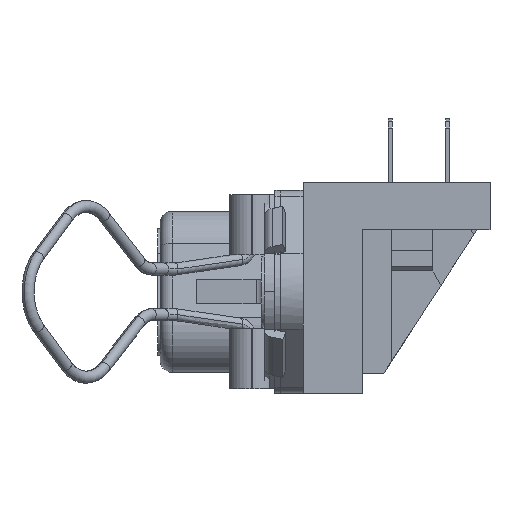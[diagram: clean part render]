
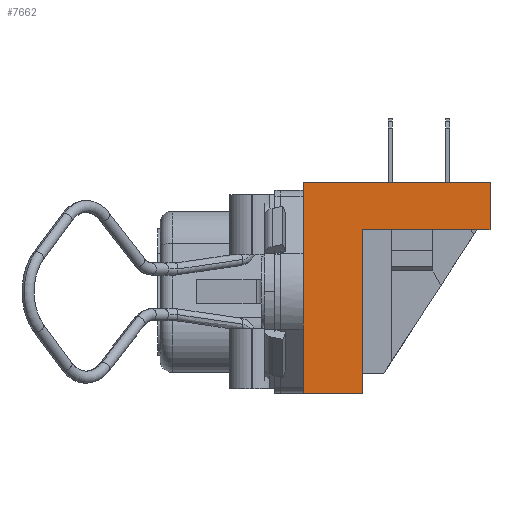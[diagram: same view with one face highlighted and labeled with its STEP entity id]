
A CAD part, left-side view. The second image highlights one B-rep face of the part: STEP entity #7662.
In plain terms, the highlighted planar face has unit normal (-1, 0, 0).
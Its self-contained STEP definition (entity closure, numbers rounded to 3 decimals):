
#262 = VECTOR ( 'NONE', #26196, 1000. ) ;
#467 = LINE ( 'NONE', #21460, #42025 ) ;
#1096 = CARTESIAN_POINT ( 'NONE',  ( -33.87, 1.2, -7.55 ) ) ;
#1317 = DIRECTION ( 'NONE',  ( 0., -1., 0. ) ) ;
#1522 = DIRECTION ( 'NONE',  ( 0., 0., -1. ) ) ;
#5826 = CARTESIAN_POINT ( 'NONE',  ( -33.87, -3.2, 4.63 ) ) ;
#6251 = CARTESIAN_POINT ( 'NONE',  ( -33.87, 1.2, 4.63 ) ) ;
#6861 = VECTOR ( 'NONE', #48765, 1000. ) ;
#7150 = EDGE_CURVE ( 'NONE', #27419, #22934, #43822, .T. ) ;
#7620 = ORIENTED_EDGE ( 'NONE', *, *, #32938, .F. ) ;
#7662 = ADVANCED_FACE ( 'NONE', ( #27307 ), #46311, .T. ) ;
#9788 = CARTESIAN_POINT ( 'NONE',  ( -33.87, 1.2, -7.55 ) ) ;
#11905 = CARTESIAN_POINT ( 'NONE',  ( -33.87, 1.2, 8.13 ) ) ;
#12090 = VECTOR ( 'NONE', #1522, 1000. ) ;
#14179 = VERTEX_POINT ( 'NONE', #11905 ) ;
#15091 = DIRECTION ( 'NONE',  ( 0., 1., 0. ) ) ;
#17085 = DIRECTION ( 'NONE',  ( -1., 0., 0. ) ) ;
#17639 = LINE ( 'NONE', #51185, #19602 ) ;
#18392 = EDGE_CURVE ( 'NONE', #22934, #41796, #48403, .T. ) ;
#18832 = CARTESIAN_POINT ( 'NONE',  ( -33.87, 1.2, -7.55 ) ) ;
#19381 = CARTESIAN_POINT ( 'NONE',  ( -33.87, -12.7, -7.55 ) ) ;
#19602 = VECTOR ( 'NONE', #43070, 1000. ) ;
#20784 = CARTESIAN_POINT ( 'NONE',  ( -33.87, 1.2, -7.55 ) ) ;
#21342 = CARTESIAN_POINT ( 'NONE',  ( -33.87, 1.2, -7.55 ) ) ;
#21460 = CARTESIAN_POINT ( 'NONE',  ( -33.87, -3.2, -7.55 ) ) ;
#21730 = EDGE_CURVE ( 'NONE', #14179, #27419, #28655, .T. ) ;
#21734 = AXIS2_PLACEMENT_3D ( 'NONE', #21342, #17085, #42392 ) ;
#22647 = VERTEX_POINT ( 'NONE', #25974 ) ;
#22934 = VERTEX_POINT ( 'NONE', #20784 ) ;
#24592 = VECTOR ( 'NONE', #1317, 1000. ) ;
#25706 = DIRECTION ( 'NONE',  ( 0., 0., 1. ) ) ;
#25974 = CARTESIAN_POINT ( 'NONE',  ( -33.87, -12.7, 4.63 ) ) ;
#26196 = DIRECTION ( 'NONE',  ( 0., 0., -1. ) ) ;
#26211 = VERTEX_POINT ( 'NONE', #5826 ) ;
#27307 = FACE_OUTER_BOUND ( 'NONE', #32738, .T. ) ;
#27419 = VERTEX_POINT ( 'NONE', #39650 ) ;
#28655 = LINE ( 'NONE', #18832, #12090 ) ;
#32069 = VECTOR ( 'NONE', #15091, 1000. ) ;
#32738 = EDGE_LOOP ( 'NONE', ( #46029, #7620, #34282, #34439, #49273, #34230, #41004 ) ) ;
#32938 = EDGE_CURVE ( 'NONE', #49388, #22647, #49826, .T. ) ;
#34230 = ORIENTED_EDGE ( 'NONE', *, *, #18392, .T. ) ;
#34282 = ORIENTED_EDGE ( 'NONE', *, *, #38745, .F. ) ;
#34439 = ORIENTED_EDGE ( 'NONE', *, *, #21730, .T. ) ;
#34720 = CARTESIAN_POINT ( 'NONE',  ( -33.87, -12.7, 8.13 ) ) ;
#38745 = EDGE_CURVE ( 'NONE', #14179, #49388, #17639, .T. ) ;
#38951 = CARTESIAN_POINT ( 'NONE',  ( -33.87, -3.2, -7.55 ) ) ;
#39650 = CARTESIAN_POINT ( 'NONE',  ( -33.87, 1.2, 0. ) ) ;
#41004 = ORIENTED_EDGE ( 'NONE', *, *, #53444, .T. ) ;
#41796 = VERTEX_POINT ( 'NONE', #38951 ) ;
#42025 = VECTOR ( 'NONE', #25706, 1000. ) ;
#42392 = DIRECTION ( 'NONE',  ( 0., 1., 0. ) ) ;
#43070 = DIRECTION ( 'NONE',  ( 0., -1., 0. ) ) ;
#43822 = LINE ( 'NONE', #1096, #262 ) ;
#46029 = ORIENTED_EDGE ( 'NONE', *, *, #54202, .F. ) ;
#46311 = PLANE ( 'NONE',  #21734 ) ;
#48403 = LINE ( 'NONE', #9788, #24592 ) ;
#48765 = DIRECTION ( 'NONE',  ( 0., 0., -1. ) ) ;
#49273 = ORIENTED_EDGE ( 'NONE', *, *, #7150, .T. ) ;
#49388 = VERTEX_POINT ( 'NONE', #34720 ) ;
#49826 = LINE ( 'NONE', #19381, #6861 ) ;
#51185 = CARTESIAN_POINT ( 'NONE',  ( -33.87, 1.2, 8.13 ) ) ;
#51190 = LINE ( 'NONE', #6251, #32069 ) ;
#53444 = EDGE_CURVE ( 'NONE', #41796, #26211, #467, .T. ) ;
#54202 = EDGE_CURVE ( 'NONE', #22647, #26211, #51190, .T. ) ;
